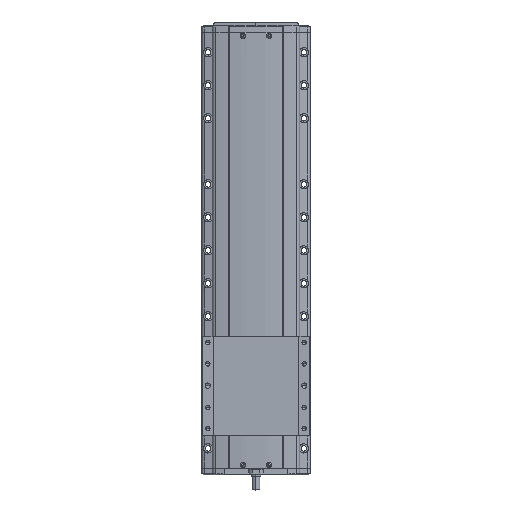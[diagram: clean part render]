
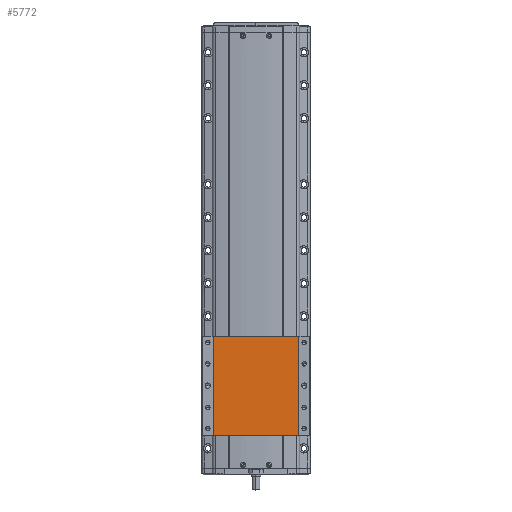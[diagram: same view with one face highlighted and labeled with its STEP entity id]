
A CAD part, top view. The second image highlights one B-rep face of the part: STEP entity #5772.
In plain terms, the highlighted planar face has unit normal (0, 0, 1).
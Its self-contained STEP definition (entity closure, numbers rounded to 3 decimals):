
#5772=ADVANCED_FACE('',(#11686),#11687,.F.);
#11686=FACE_OUTER_BOUND('',#19874,.T.);
#11687=PLANE('',#19875);
#19874=EDGE_LOOP('',(#37216,#37217,#37218,#37219));
#19875=AXIS2_PLACEMENT_3D('',#37220,#37221,#37222);
#37216=ORIENTED_EDGE('',*,*,#44333,.F.);
#37217=ORIENTED_EDGE('',*,*,#43554,.F.);
#37218=ORIENTED_EDGE('',*,*,#41261,.F.);
#37219=ORIENTED_EDGE('',*,*,#44362,.T.);
#37220=CARTESIAN_POINT('',(-600.,172.222,51.5));
#37221=DIRECTION('',(0.,0.,-1.0));
#37222=DIRECTION('',(-1.0,0.,0.));
#41261=EDGE_CURVE('',#50603,#50605,#50606,.T.);
#43554=EDGE_CURVE('',#50605,#53691,#53693,.T.);
#44333=EDGE_CURVE('',#53691,#54530,#54531,.T.);
#44362=EDGE_CURVE('',#50603,#54530,#54561,.T.);
#50603=VERTEX_POINT('',#64138);
#50605=VERTEX_POINT('',#64140);
#50606=LINE('',#64141,#64142);
#53691=VERTEX_POINT('',#68785);
#53693=LINE('',#68787,#68788);
#54530=VERTEX_POINT('',#69904);
#54531=LINE('',#69905,#69906);
#54561=LINE('',#69938,#69939);
#64138=CARTESIAN_POINT('',(-535.624,172.222,51.5));
#64140=CARTESIAN_POINT('',(-664.376,172.222,51.5));
#64141=CARTESIAN_POINT('',(-535.624,172.222,51.5));
#64142=VECTOR('',#74664,10.0);
#68785=CARTESIAN_POINT('',(-664.376,322.222,51.5));
#68787=CARTESIAN_POINT('',(-664.376,172.222,51.5));
#68788=VECTOR('',#77235,10.0);
#69904=CARTESIAN_POINT('',(-535.624,322.222,51.5));
#69905=CARTESIAN_POINT('',(-535.624,322.222,51.5));
#69906=VECTOR('',#77758,10.0);
#69938=CARTESIAN_POINT('',(-535.624,172.222,51.5));
#69939=VECTOR('',#77773,10.0);
#74664=DIRECTION('',(-1.0,0.,0.));
#77235=DIRECTION('',(0.,1.0,0.));
#77758=DIRECTION('',(1.0,0.,0.));
#77773=DIRECTION('',(0.,1.0,0.));
